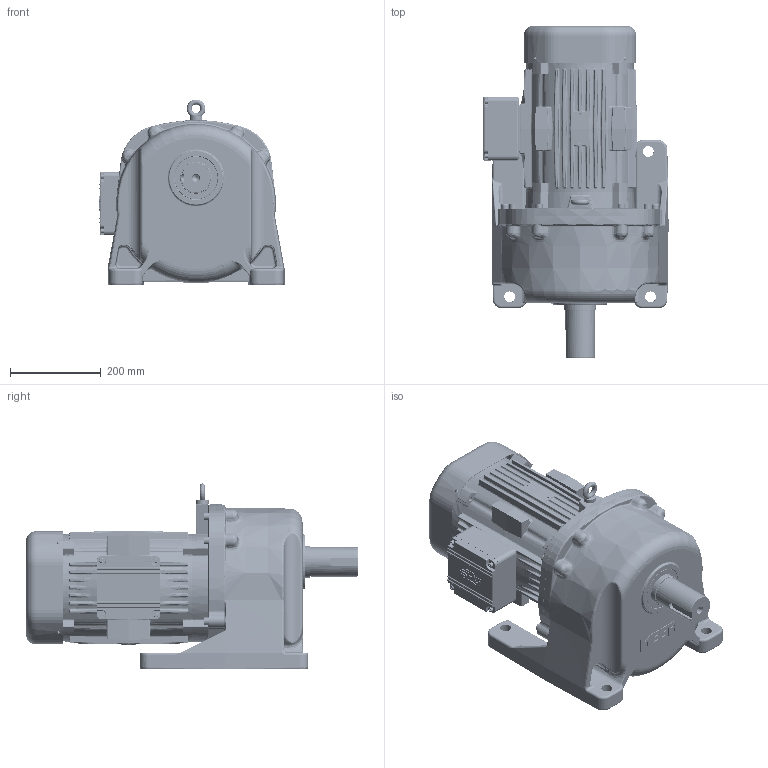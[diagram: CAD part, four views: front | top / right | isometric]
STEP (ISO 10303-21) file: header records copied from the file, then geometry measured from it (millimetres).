
FILE_DESCRIPTION(/* description */ (''),/* implementation_level */ '2;1');
FILE_NAME(/* name */ 'Z:\동력 3D 파일\PML235_7.5kW_3D.stp',/* time_stamp */ '2021-11-30T16:40:11+09:00',/* author */ ('jaebok'),/* organization */ (''),/* preprocessor_version */ 'ST-DEVELOPER v18.1',/* originating_system */ 'Autodesk Inventor 2022',/* authorisation */ '');
FILE_SCHEMA (('AUTOMOTIVE_DESIGN { 1 0 10303 214 3 1 1 }'));
Length unit declared in the file: millimetre
Products named in the file (1): 부품28
Bounding box: 407.9 x 731 x 407.5 mm (x, y, z)
Volume: 14641503.4 mm3; surface area: 2372370.6 mm2
Topology: 3 solids, 30 shells, 5473 faces, 13406 edges, 7886 vertices
Faces by surface type: bspline 1802, plane 1337, cylinder 1330, torus 506, sphere 284, cone 214
Full cylindrical faces by diameter (mm): 3.242 x4, 4.134 x4, 4.917 x9, 5 x16, 6 x9, 6.5 x8, 6.647 x17, 7 x4, 8 x4, 8.376 x1, 9.5 x4, 10 x16, 10.106 x1, 12 x9, 13 x8, 13.2 x1, 13.835 x1, 15 x1, 16 x8, 20 x1, 24 x4, 28 x1, 32 x1, 34 x2, 50 x2, 55 x1, 60 x1, 62 x1, 65 x1, 70 x5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
Entity records: 219017 total; most frequent: CARTESIAN_POINT 96297, ORIENTED_EDGE 26230, DIRECTION 21873, EDGE_CURVE 13115, AXIS2_PLACEMENT_3D 8684, VERTEX_POINT 7882, EDGE_LOOP 5787, FACE_OUTER_BOUND 5473
